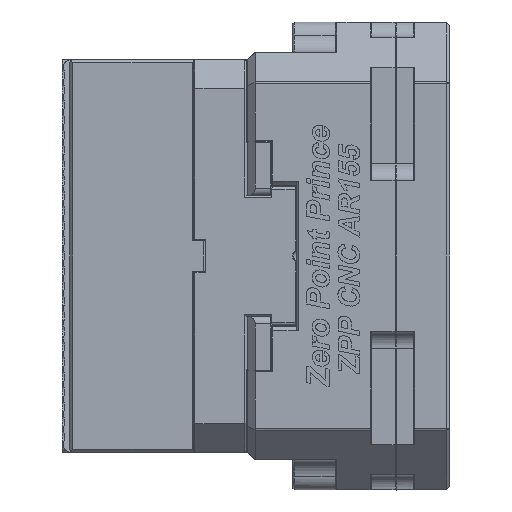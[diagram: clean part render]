
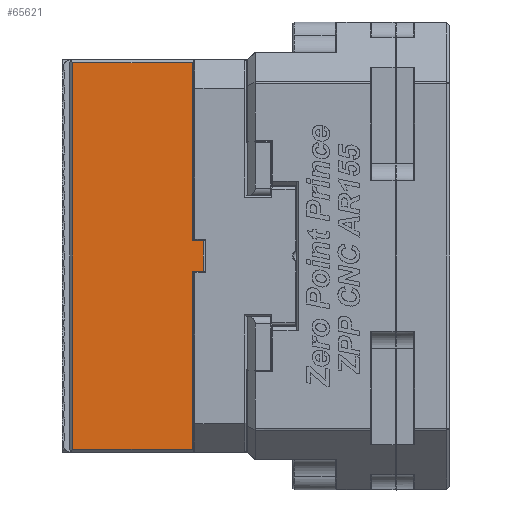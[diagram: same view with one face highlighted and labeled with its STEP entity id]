
A CAD part, left-side view. The second image highlights one B-rep face of the part: STEP entity #65621.
In plain terms, the highlighted planar face has unit normal (-1, 0, 0) as drawn and (1, 0, 0) by its records, which use the part's own axes.
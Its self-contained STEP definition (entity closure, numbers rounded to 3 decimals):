
#63418=DIRECTION('',(0.,0.,-1.));
#63419=VECTOR('',#63418,10.);
#63420=CARTESIAN_POINT('',(64.5,81.8,5.));
#63421=LINE('',#63420,#63419);
#63507=DIRECTION('',(0.,-1.,0.));
#63508=VECTOR('',#63507,39.7);
#63509=CARTESIAN_POINT('',(64.5,125.,64.));
#63510=LINE('',#63509,#63508);
#63511=DIRECTION('',(0.,0.,-1.));
#63512=VECTOR('',#63511,59.);
#63513=CARTESIAN_POINT('',(64.5,85.3,64.));
#63514=LINE('',#63513,#63512);
#63523=DIRECTION('',(0.,0.,1.));
#63524=VECTOR('',#63523,128.);
#63525=CARTESIAN_POINT('',(64.5,125.,-64.));
#63526=LINE('',#63525,#63524);
#63755=DIRECTION('',(0.,1.,0.));
#63756=VECTOR('',#63755,39.7);
#63757=CARTESIAN_POINT('',(64.5,85.3,-64.));
#63758=LINE('',#63757,#63756);
#63888=DIRECTION('',(0.,1.,0.));
#63889=VECTOR('',#63888,3.5);
#63890=CARTESIAN_POINT('',(64.5,81.8,-5.));
#63891=LINE('',#63890,#63889);
#63900=DIRECTION('',(0.,0.,-1.));
#63901=VECTOR('',#63900,59.);
#63902=CARTESIAN_POINT('',(64.5,85.3,-5.));
#63903=LINE('',#63902,#63901);
#64225=DIRECTION('',(0.,-1.,0.));
#64226=VECTOR('',#64225,3.5);
#64227=CARTESIAN_POINT('',(64.5,85.3,5.));
#64228=LINE('',#64227,#64226);
#64683=CARTESIAN_POINT('',(64.5,81.8,5.));
#64684=VERTEX_POINT('',#64683);
#64685=CARTESIAN_POINT('',(64.5,81.8,-5.));
#64686=VERTEX_POINT('',#64685);
#64705=CARTESIAN_POINT('',(64.5,85.3,64.));
#64707=VERTEX_POINT('',#64705);
#64711=CARTESIAN_POINT('',(64.5,125.,64.));
#64712=VERTEX_POINT('',#64711);
#64713=CARTESIAN_POINT('',(64.5,85.3,5.));
#64714=VERTEX_POINT('',#64713);
#64717=CARTESIAN_POINT('',(64.5,125.,-64.));
#64718=VERTEX_POINT('',#64717);
#64719=CARTESIAN_POINT('',(64.5,85.3,-64.));
#64720=VERTEX_POINT('',#64719);
#64721=CARTESIAN_POINT('',(64.5,85.3,-5.));
#64722=VERTEX_POINT('',#64721);
#65601=CARTESIAN_POINT('',(64.5,85.,65.));
#65602=DIRECTION('',(1.,0.,0.));
#65603=DIRECTION('',(0.,0.,-1.));
#65604=AXIS2_PLACEMENT_3D('',#65601,#65602,#65603);
#65605=PLANE('',#65604);
#65606=ORIENTED_EDGE('',*,*,#65581,.F.);
#65608=ORIENTED_EDGE('',*,*,#65607,.F.);
#65610=ORIENTED_EDGE('',*,*,#65609,.F.);
#65612=ORIENTED_EDGE('',*,*,#65611,.F.);
#65614=ORIENTED_EDGE('',*,*,#65613,.F.);
#65615=ORIENTED_EDGE('',*,*,#65453,.F.);
#65617=ORIENTED_EDGE('',*,*,#65616,.F.);
#65618=ORIENTED_EDGE('',*,*,#65592,.F.);
#65619=EDGE_LOOP('',(#65606,#65608,#65610,#65612,#65614,#65615,#65617,#65618));
#65620=FACE_OUTER_BOUND('',#65619,.F.);
#65621=ADVANCED_FACE('',(#65620),#65605,.T.);
#65453=EDGE_CURVE('',#64684,#64686,#63421,.T.);
#65581=EDGE_CURVE('',#64712,#64707,#63510,.T.);
#65592=EDGE_CURVE('',#64707,#64714,#63514,.T.);
#65607=EDGE_CURVE('',#64718,#64712,#63526,.T.);
#65609=EDGE_CURVE('',#64720,#64718,#63758,.T.);
#65611=EDGE_CURVE('',#64722,#64720,#63903,.T.);
#65613=EDGE_CURVE('',#64686,#64722,#63891,.T.);
#65616=EDGE_CURVE('',#64714,#64684,#64228,.T.);
